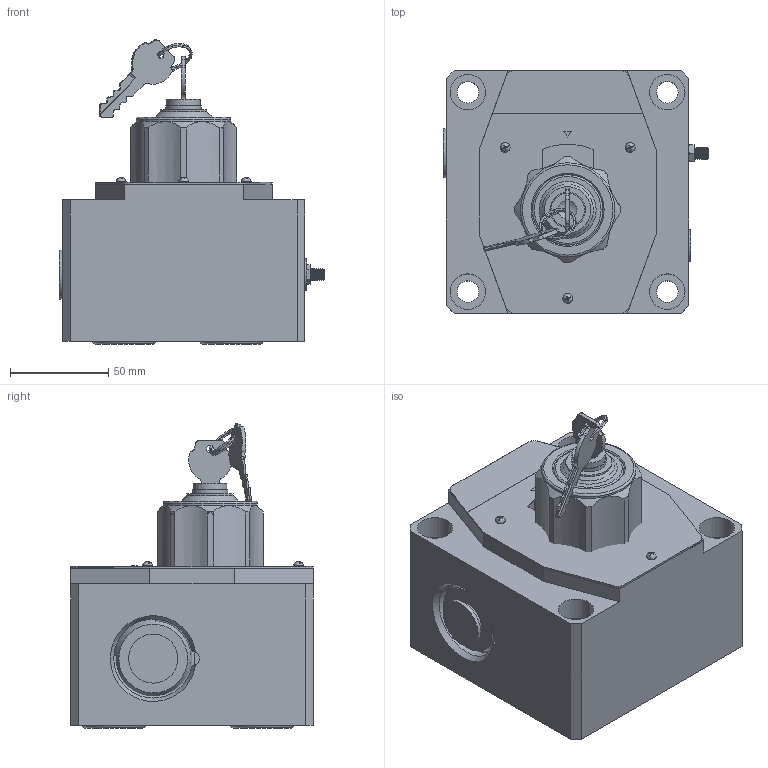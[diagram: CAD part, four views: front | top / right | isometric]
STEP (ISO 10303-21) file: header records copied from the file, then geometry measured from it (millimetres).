
FILE_DESCRIPTION(/* description */ (''),/* implementation_level */ '2;1');
FILE_NAME(/* name */ '2FRM16-2XJ-B调速阀（带行程限制器）.prt.stp',/* time_stamp */ '2022-03-30T19:56:11+08:00',/* author */ (''),/* organization */ (''),/* preprocessor_version */ 'ST-DEVELOPER v16.7',/* originating_system */ 'SIEMENS PLM Software NX 12.0',/* authorisation */ '');
FILE_SCHEMA (('AUTOMOTIVE_DESIGN { 1 0 10303 214 3 1 1 1 }'));
Products named in the file (1): 2FRM16-2XJ-B调速阀（带行程限制器）
Bounding box: 134.98 x 123.5 x 154.9 mm (x, y, z)
Volume: 1158737.2 mm3; surface area: 172310.5 mm2
Topology: 28 solids, 33 shells, 1049 faces, 2809 edges, 1840 vertices
Faces by surface type: cylinder 382, plane 347, cone 138, extrusion 84, torus 61, bspline 27, sphere 10
Full cylindrical faces by diameter (mm): 2 x1, 2.2 x3, 3 x1, 3.2 x3, 4.25 x1, 6 x1, 11 x4, 12 x1, 16 x1, 17 x2, 18 x7, 18.5 x5, 20 x1, 22.5 x1, 23.6 x1, 25 x3, 29 x1, 31.5 x2, 33 x1, 34.8 x1, 35 x1, 36 x2, 39 x1, 40.2 x1, 45 x1, 48 x1
Entity records: 62654 total; most frequent: CARTESIAN_POINT 37264, ORIENTED_EDGE 5246, DIRECTION 4765, EDGE_CURVE 2623, AXIS2_PLACEMENT_3D 1823, VERTEX_POINT 1790, EDGE_LOOP 1218, VECTOR 1119
